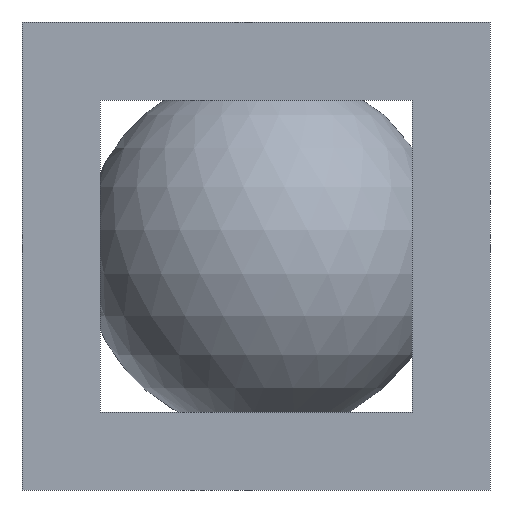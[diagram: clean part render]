
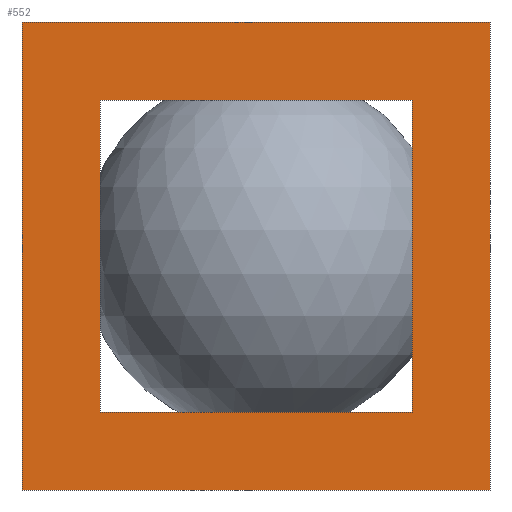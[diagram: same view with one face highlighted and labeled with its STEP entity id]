
A CAD part, front view. The second image highlights one B-rep face of the part: STEP entity #552.
In plain terms, the highlighted planar face has unit normal (0, -1, 0).
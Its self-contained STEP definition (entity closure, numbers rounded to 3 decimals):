
#19=FACE_BOUND('',#81,.T.);
#49=FACE_OUTER_BOUND('',#80,.T.);
#80=EDGE_LOOP('',(#448,#449,#450,#451));
#81=EDGE_LOOP('',(#452,#453,#454,#455));
#118=LINE('',#797,#190);
#139=LINE('',#839,#211);
#150=LINE('',#856,#222);
#152=LINE('',#860,#224);
#153=LINE('',#864,#225);
#154=LINE('',#866,#226);
#155=LINE('',#868,#227);
#156=LINE('',#869,#228);
#190=VECTOR('',#651,10.);
#211=VECTOR('',#686,10.);
#222=VECTOR('',#709,10.);
#224=VECTOR('',#715,10.);
#225=VECTOR('',#718,10.);
#226=VECTOR('',#719,10.);
#227=VECTOR('',#720,10.);
#228=VECTOR('',#721,10.);
#253=VERTEX_POINT('',#794);
#254=VERTEX_POINT('',#796);
#267=VERTEX_POINT('',#836);
#268=VERTEX_POINT('',#838);
#269=VERTEX_POINT('',#862);
#270=VERTEX_POINT('',#863);
#271=VERTEX_POINT('',#865);
#272=VERTEX_POINT('',#867);
#304=EDGE_CURVE('',#254,#253,#118,.T.);
#325=EDGE_CURVE('',#268,#267,#139,.T.);
#336=EDGE_CURVE('',#267,#254,#150,.T.);
#338=EDGE_CURVE('',#253,#268,#152,.T.);
#339=EDGE_CURVE('',#269,#270,#153,.T.);
#340=EDGE_CURVE('',#270,#271,#154,.T.);
#341=EDGE_CURVE('',#271,#272,#155,.T.);
#342=EDGE_CURVE('',#272,#269,#156,.T.);
#448=ORIENTED_EDGE('',*,*,#339,.T.);
#449=ORIENTED_EDGE('',*,*,#340,.T.);
#450=ORIENTED_EDGE('',*,*,#341,.T.);
#451=ORIENTED_EDGE('',*,*,#342,.T.);
#452=ORIENTED_EDGE('',*,*,#325,.T.);
#453=ORIENTED_EDGE('',*,*,#336,.T.);
#454=ORIENTED_EDGE('',*,*,#304,.T.);
#455=ORIENTED_EDGE('',*,*,#338,.T.);
#522=PLANE('',#598);
#552=ADVANCED_FACE('',(#49,#19),#522,.T.);
#598=AXIS2_PLACEMENT_3D('',#861,#716,#717);
#651=DIRECTION('',(1.,0.,0.));
#686=DIRECTION('',(-1.,0.,0.));
#709=DIRECTION('',(0.,0.,1.));
#715=DIRECTION('',(0.,0.,-1.));
#716=DIRECTION('center_axis',(0.,-1.,0.));
#717=DIRECTION('ref_axis',(0.,0.,-1.));
#718=DIRECTION('',(0.,0.,1.));
#719=DIRECTION('',(-1.,0.,0.));
#720=DIRECTION('',(0.,0.,-1.));
#721=DIRECTION('',(1.,0.,0.));
#794=CARTESIAN_POINT('',(15.,-20.,15.));
#796=CARTESIAN_POINT('',(-15.,-20.,15.));
#797=CARTESIAN_POINT('',(7.5,-20.,15.));
#836=CARTESIAN_POINT('',(-15.,-20.,-15.));
#838=CARTESIAN_POINT('',(15.,-20.,-15.));
#839=CARTESIAN_POINT('',(-7.5,-20.,-15.));
#856=CARTESIAN_POINT('',(-15.,-20.,7.5));
#860=CARTESIAN_POINT('',(15.,-20.,-7.5));
#861=CARTESIAN_POINT('Origin',(0.,-20.,0.));
#862=CARTESIAN_POINT('',(22.5,-20.,-22.5));
#863=CARTESIAN_POINT('',(22.5,-20.,22.5));
#864=CARTESIAN_POINT('',(22.5,-20.,22.5));
#865=CARTESIAN_POINT('',(-22.5,-20.,22.5));
#866=CARTESIAN_POINT('',(-22.5,-20.,22.5));
#867=CARTESIAN_POINT('',(-22.5,-20.,-22.5));
#868=CARTESIAN_POINT('',(-22.5,-20.,-22.5));
#869=CARTESIAN_POINT('',(22.5,-20.,-22.5));
